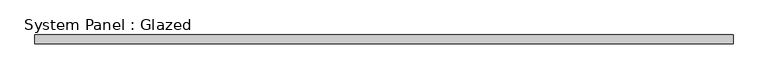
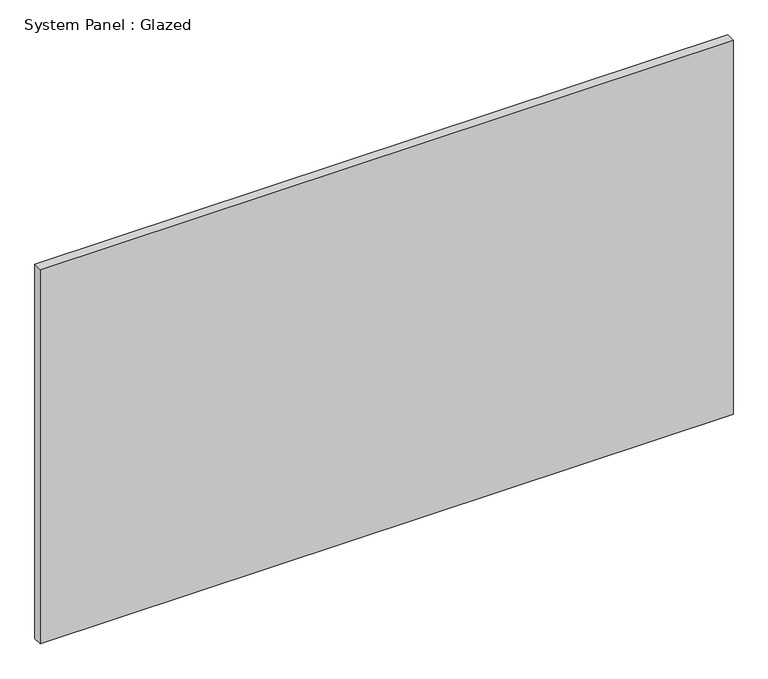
"""IFC4 building model written with IfcOpenShell, lengths in millimetres: plate geometry, System Panel : Glazed."""

from ifc_helpers import new_model, si_unit, origin, origin_with_axes, place, context, project, spatial, polyline, outline, extrude, source, transform, mapped, element, save


def system_panel_glazed_c64d999e(model_context):
    return source(origin(), model_context, "Body", "SweptSolid", [
        extrude(outline(polyline([(984.25, 19.05), (-984.25, 19.05), (-984.25, 44.45), (984.25, 44.45), (984.25, 19.05)])), origin_with_axes(), (0.0, 0.0, 1.0), 1123.95),
    ])


if __name__ == "__main__":
    model = new_model("IFC4")
    model_context = context("Model", 3, world=origin())
    ifc_project = project(units=[si_unit("LENGTHUNIT", "METRE", prefix="MILLI")], contexts=[model_context])
    site = spatial("IfcSite", under=ifc_project)
    building = spatial("IfcBuilding", under=site)
    placement = place(None, origin())
    system_panel_glazed_shape = system_panel_glazed_c64d999e(model_context)
    element("IfcPlate", 1, ObjectType="System Panel : Glazed", at=placement, inside=building, context=model_context, shape_type="MappedRepresentation", body=[
        mapped(system_panel_glazed_shape, transform((0.0, 0.0, 0.0), x_axis=(1.0, 0.0, 0.0), y_axis=(0.0, 1.0, 0.0), z_axis=(0.0, 0.0, 1.0))),
    ])
    save(model, "model.ifc")
